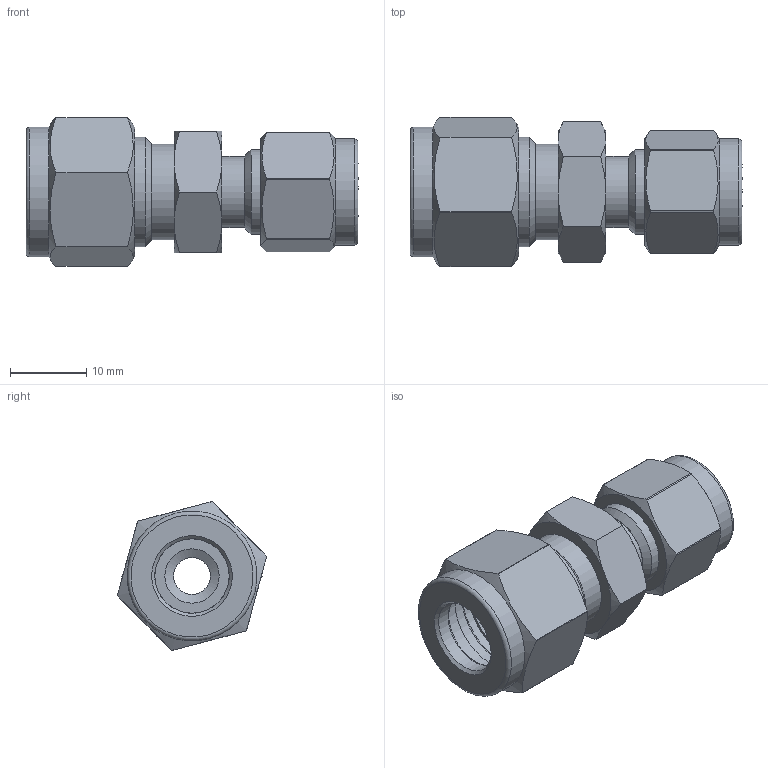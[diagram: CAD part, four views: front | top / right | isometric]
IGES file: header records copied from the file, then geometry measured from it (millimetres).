
Global section: file name: No Iges File Name specified; native system: Autodesk Inventor 2012; preprocessor: AutoDesk Inventor Iges Exporter R2012; author: 硅己绕,,1; organization: 1; date: 20150420.101327; units: millimetre
Bounding box: 43.45 x 19.52 x 19.47 mm (x, y, z)
Volume: 5431 mm3; surface area: 5162.1 mm2
Topology: 3 solids, 3 shells, 97 faces, 223 edges, 140 vertices
Faces by surface type: plane 32, revolution 21, cone 20, cylinder 20, torus 4
Full cylindrical faces by diameter (mm): 9.3 x1, 9.4 x1, 11.112 x1, 12.5 x1, 12.55 x1, 13.9 x1, 14.28 x1, 17 x1
